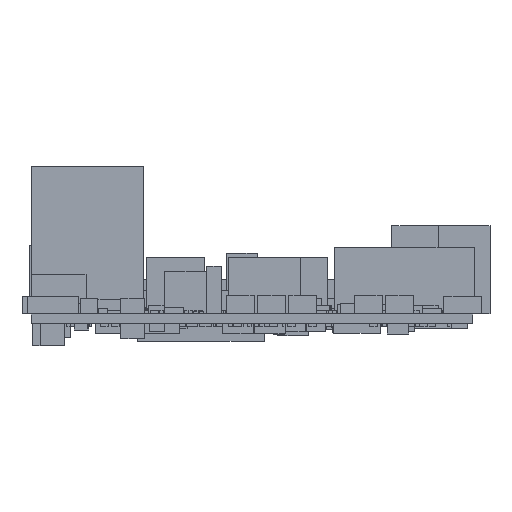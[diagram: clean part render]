
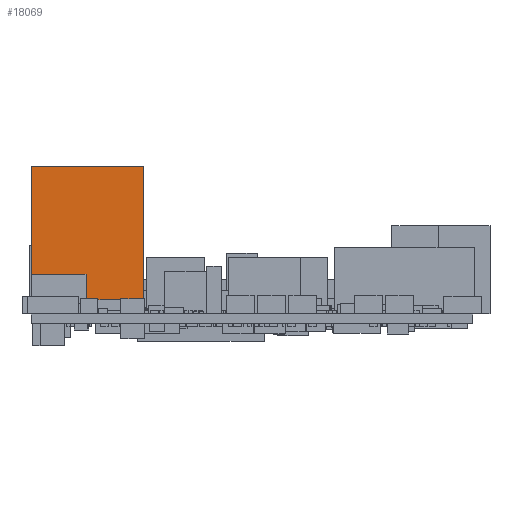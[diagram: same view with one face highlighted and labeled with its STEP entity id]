
A CAD part, left-side view. The second image highlights one B-rep face of the part: STEP entity #18069.
In plain terms, the highlighted planar face has unit normal (-1, 0, 0).
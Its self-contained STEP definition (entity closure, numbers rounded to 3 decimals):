
#17964 = PLANE('',#17965);
#17965 = AXIS2_PLACEMENT_3D('',#17966,#17967,#17968);
#17966 = CARTESIAN_POINT('',(49.65,77.55,0.));
#17967 = DIRECTION('',(0.,-1.,0.));
#17968 = DIRECTION('',(-1.,0.,0.));
#17989 = VERTEX_POINT('',#17990);
#17990 = CARTESIAN_POINT('',(38.95,77.55,26.));
#18004 = PLANE('',#18005);
#18005 = AXIS2_PLACEMENT_3D('',#18006,#18007,#18008);
#18006 = CARTESIAN_POINT('',(44.3,67.7,26.));
#18007 = DIRECTION('',(0.,0.,1.));
#18008 = DIRECTION('',(-1.,0.,0.));
#18016 = EDGE_CURVE('',#18017,#17989,#18019,.T.);
#18017 = VERTEX_POINT('',#18018);
#18018 = CARTESIAN_POINT('',(38.95,77.55,0.));
#18019 = SURFACE_CURVE('',#18020,(#18024,#18031),.PCURVE_S1.);
#18020 = LINE('',#18021,#18022);
#18021 = CARTESIAN_POINT('',(38.95,77.55,0.));
#18022 = VECTOR('',#18023,1.);
#18023 = DIRECTION('',(0.,0.,1.));
#18024 = PCURVE('',#17964,#18025);
#18025 = DEFINITIONAL_REPRESENTATION('',(#18026),#18030);
#18026 = LINE('',#18027,#18028);
#18027 = CARTESIAN_POINT('',(10.7,0.));
#18028 = VECTOR('',#18029,1.);
#18029 = DIRECTION('',(0.,-1.));
#18030 = ( GEOMETRIC_REPRESENTATION_CONTEXT(2) 
PARAMETRIC_REPRESENTATION_CONTEXT() REPRESENTATION_CONTEXT('2D SPACE',''
  ) );
#18031 = PCURVE('',#18032,#18037);
#18032 = PLANE('',#18033);
#18033 = AXIS2_PLACEMENT_3D('',#18034,#18035,#18036);
#18034 = CARTESIAN_POINT('',(38.95,77.55,0.));
#18035 = DIRECTION('',(1.,0.,0.));
#18036 = DIRECTION('',(0.,-1.,0.));
#18037 = DEFINITIONAL_REPRESENTATION('',(#18038),#18042);
#18038 = LINE('',#18039,#18040);
#18039 = CARTESIAN_POINT('',(0.,0.));
#18040 = VECTOR('',#18041,1.);
#18041 = DIRECTION('',(0.,-1.));
#18042 = ( GEOMETRIC_REPRESENTATION_CONTEXT(2) 
PARAMETRIC_REPRESENTATION_CONTEXT() REPRESENTATION_CONTEXT('2D SPACE',''
  ) );
#18058 = PLANE('',#18059);
#18059 = AXIS2_PLACEMENT_3D('',#18060,#18061,#18062);
#18060 = CARTESIAN_POINT('',(44.3,67.7,0.));
#18061 = DIRECTION('',(0.,0.,1.));
#18062 = DIRECTION('',(-1.,0.,0.));
#18069 = ADVANCED_FACE('',(#18070),#18032,.F.);
#18070 = FACE_BOUND('',#18071,.F.);
#18071 = EDGE_LOOP('',(#18072,#18073,#18096,#18124));
#18072 = ORIENTED_EDGE('',*,*,#18016,.T.);
#18073 = ORIENTED_EDGE('',*,*,#18074,.T.);
#18074 = EDGE_CURVE('',#17989,#18075,#18077,.T.);
#18075 = VERTEX_POINT('',#18076);
#18076 = CARTESIAN_POINT('',(38.95,57.85,26.));
#18077 = SURFACE_CURVE('',#18078,(#18082,#18089),.PCURVE_S1.);
#18078 = LINE('',#18079,#18080);
#18079 = CARTESIAN_POINT('',(38.95,77.55,26.));
#18080 = VECTOR('',#18081,1.);
#18081 = DIRECTION('',(0.,-1.,0.));
#18082 = PCURVE('',#18032,#18083);
#18083 = DEFINITIONAL_REPRESENTATION('',(#18084),#18088);
#18084 = LINE('',#18085,#18086);
#18085 = CARTESIAN_POINT('',(0.,-26.));
#18086 = VECTOR('',#18087,1.);
#18087 = DIRECTION('',(1.,0.));
#18088 = ( GEOMETRIC_REPRESENTATION_CONTEXT(2) 
PARAMETRIC_REPRESENTATION_CONTEXT() REPRESENTATION_CONTEXT('2D SPACE',''
  ) );
#18089 = PCURVE('',#18004,#18090);
#18090 = DEFINITIONAL_REPRESENTATION('',(#18091),#18095);
#18091 = LINE('',#18092,#18093);
#18092 = CARTESIAN_POINT('',(5.35,-9.85));
#18093 = VECTOR('',#18094,1.);
#18094 = DIRECTION('',(0.,1.));
#18095 = ( GEOMETRIC_REPRESENTATION_CONTEXT(2) 
PARAMETRIC_REPRESENTATION_CONTEXT() REPRESENTATION_CONTEXT('2D SPACE',''
  ) );
#18096 = ORIENTED_EDGE('',*,*,#18097,.F.);
#18097 = EDGE_CURVE('',#18098,#18075,#18100,.T.);
#18098 = VERTEX_POINT('',#18099);
#18099 = CARTESIAN_POINT('',(38.95,57.85,0.));
#18100 = SURFACE_CURVE('',#18101,(#18105,#18112),.PCURVE_S1.);
#18101 = LINE('',#18102,#18103);
#18102 = CARTESIAN_POINT('',(38.95,57.85,0.));
#18103 = VECTOR('',#18104,1.);
#18104 = DIRECTION('',(0.,0.,1.));
#18105 = PCURVE('',#18032,#18106);
#18106 = DEFINITIONAL_REPRESENTATION('',(#18107),#18111);
#18107 = LINE('',#18108,#18109);
#18108 = CARTESIAN_POINT('',(19.7,0.));
#18109 = VECTOR('',#18110,1.);
#18110 = DIRECTION('',(0.,-1.));
#18111 = ( GEOMETRIC_REPRESENTATION_CONTEXT(2) 
PARAMETRIC_REPRESENTATION_CONTEXT() REPRESENTATION_CONTEXT('2D SPACE',''
  ) );
#18112 = PCURVE('',#18113,#18118);
#18113 = PLANE('',#18114);
#18114 = AXIS2_PLACEMENT_3D('',#18115,#18116,#18117);
#18115 = CARTESIAN_POINT('',(38.95,57.85,0.));
#18116 = DIRECTION('',(0.,1.,0.));
#18117 = DIRECTION('',(1.,0.,0.));
#18118 = DEFINITIONAL_REPRESENTATION('',(#18119),#18123);
#18119 = LINE('',#18120,#18121);
#18120 = CARTESIAN_POINT('',(0.,-0.));
#18121 = VECTOR('',#18122,1.);
#18122 = DIRECTION('',(0.,-1.));
#18123 = ( GEOMETRIC_REPRESENTATION_CONTEXT(2) 
PARAMETRIC_REPRESENTATION_CONTEXT() REPRESENTATION_CONTEXT('2D SPACE',''
  ) );
#18124 = ORIENTED_EDGE('',*,*,#18125,.F.);
#18125 = EDGE_CURVE('',#18017,#18098,#18126,.T.);
#18126 = SURFACE_CURVE('',#18127,(#18131,#18138),.PCURVE_S1.);
#18127 = LINE('',#18128,#18129);
#18128 = CARTESIAN_POINT('',(38.95,77.55,0.));
#18129 = VECTOR('',#18130,1.);
#18130 = DIRECTION('',(0.,-1.,0.));
#18131 = PCURVE('',#18032,#18132);
#18132 = DEFINITIONAL_REPRESENTATION('',(#18133),#18137);
#18133 = LINE('',#18134,#18135);
#18134 = CARTESIAN_POINT('',(0.,0.));
#18135 = VECTOR('',#18136,1.);
#18136 = DIRECTION('',(1.,0.));
#18137 = ( GEOMETRIC_REPRESENTATION_CONTEXT(2) 
PARAMETRIC_REPRESENTATION_CONTEXT() REPRESENTATION_CONTEXT('2D SPACE',''
  ) );
#18138 = PCURVE('',#18058,#18139);
#18139 = DEFINITIONAL_REPRESENTATION('',(#18140),#18144);
#18140 = LINE('',#18141,#18142);
#18141 = CARTESIAN_POINT('',(5.35,-9.85));
#18142 = VECTOR('',#18143,1.);
#18143 = DIRECTION('',(0.,1.));
#18144 = ( GEOMETRIC_REPRESENTATION_CONTEXT(2) 
PARAMETRIC_REPRESENTATION_CONTEXT() REPRESENTATION_CONTEXT('2D SPACE',''
  ) );
